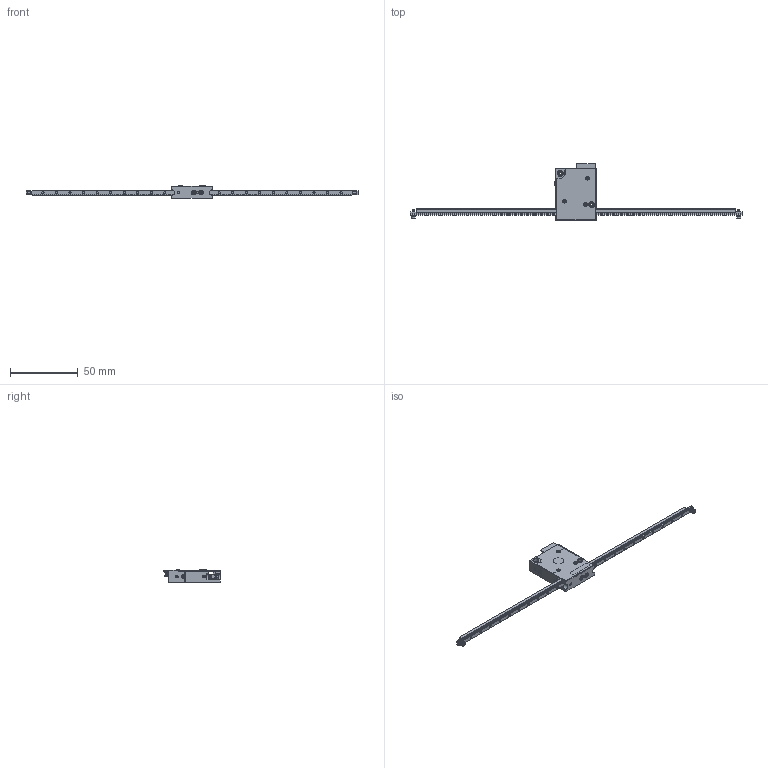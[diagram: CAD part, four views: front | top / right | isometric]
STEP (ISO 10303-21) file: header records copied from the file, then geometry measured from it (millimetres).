
FILE_DESCRIPTION(/* description */ (''),/* implementation_level */ '2;1');
FILE_NAME(/* name */ 'XLA_3_245_assy_F2.stp',/* time_stamp */ '2024-01-30T16:30:29+01:00',/* author */ (''),/* organization */ (''),/* preprocessor_version */ 'ST-DEVELOPER v16',/* originating_system */ 'SIEMENS PLM Software NX 10.0',/* authorisation */ '');
FILE_SCHEMA (('AUTOMOTIVE_DESIGN { 1 0 10303 214 3 1 1 1 }'));
Products named in the file (22): 525591452_stp; 525591252_stp; 527451497_Gold; 527451297_Gold; O-ring_Di1_Do3; rondsel_DIN433_M1_6; XLA_3_damping_foil_235_B; Bout_M1_6_L5; linear_encoder_235; ceramic_ruler_W3_T2_L235; rail-0245_step; Part1_carriage; Part2_carriage; CSPPN1P-ST3W-M2-1_5_214_step; XLA_3_cover_A; CSPPN1P-ST3W-M2-3_214_step; PACK-SMIB1.6-3_stp; XLA_3_body_E2; XLA_3_top_PCB_B; XLA_3_tractielat_245_B; carriage; XLA_3_245_assy_F2
Assembly tree (30 placements, depth 3):
  XLA_3_245_assy_F2
    carriage
      Part2_carriage  x2
      Part1_carriage
    XLA_3_body_E2
    XLA_3_tractielat_245_B
      rail-0245_step
      ceramic_ruler_W3_T2_L235
      linear_encoder_235
      Bout_M1_6_L5  x2
      XLA_3_damping_foil_235_B
      rondsel_DIN433_M1_6  x4
      O-ring_Di1_Do3  x2
    XLA_3_top_PCB_B
      527451297_Gold
      527451497_Gold
      525591252_stp
      525591452_stp
    PACK-SMIB1.6-3_stp  x3
    CSPPN1P-ST3W-M2-3_214_step  x2
    XLA_3_cover_A
    CSPPN1P-ST3W-M2-1_5_214_step
Bounding box: 245 x 42 x 9.45 mm (x, y, z)
Volume: 12742.7 mm3; surface area: 18976.3 mm2
Topology: 28 solids, 28 shells, 2901 faces, 8441 edges, 5522 vertices
Faces by surface type: plane 2340, cylinder 433, cone 52, sphere 36, torus 31, bspline 9
Full cylindrical faces by diameter (mm): 1 x2, 1.25 x3, 1.6 x8, 1.7 x4, 1.8 x3, 2.135 x2, 2.2 x2, 2.4 x3, 2.8 x3, 3 x2, 3.4 x2, 3.5 x4, 4.4 x4, 8 x1
Entity records: 94241 total; most frequent: CARTESIAN_POINT 20025, ORIENTED_EDGE 15850, DIRECTION 14353, EDGE_CURVE 7925, LINE 6951, VECTOR 6951, VERTEX_POINT 5234, AXIS2_PLACEMENT_3D 3701
